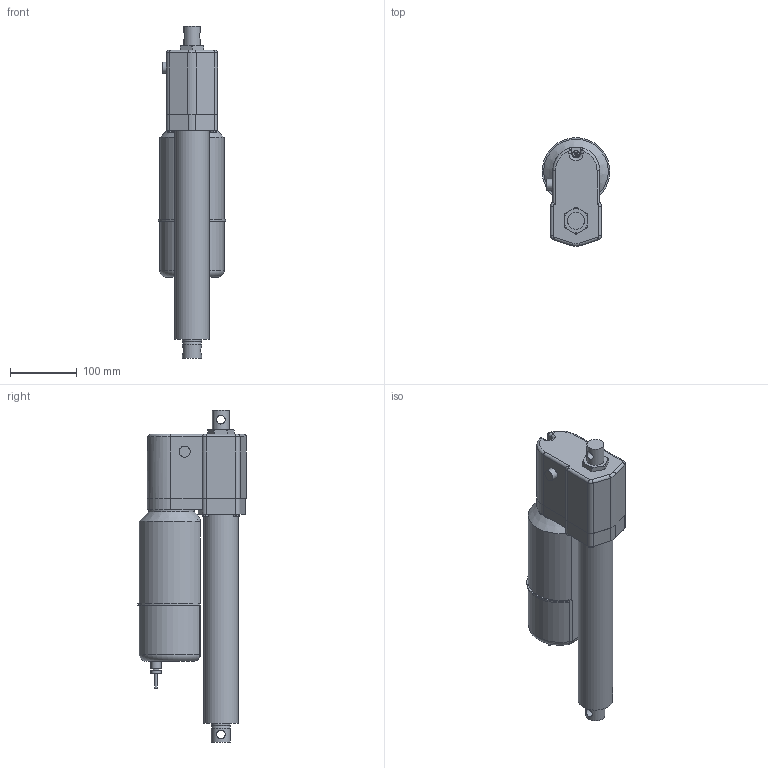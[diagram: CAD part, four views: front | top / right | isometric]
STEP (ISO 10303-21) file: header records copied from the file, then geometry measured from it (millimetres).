
FILE_DESCRIPTION (( 'STEP AP214' ), '1' );
FILE_NAME ('A22-05A5-10M0NPO-tollo.step', '2020-04-05T13:06:45', ( '' ), ( '' ), 'SwSTEP 2.0', 'SolidWorks 2010', '' );
FILE_SCHEMA (( 'AUTOMOTIVE_DESIGN' ));
Length unit declared in the file: millimetre
Products named in the file (7): Electrak-LA5-Motor-A22-05A5-10M0NPO-tollo_Electrak-LA5-Motor-A22-05A5-10M0NPO-tollo; Electrak-LA5-Rear-A22-05A5-10M0NPO-tollo_Electrak-LA5-Rear-A22-05A5-10M0NPO-tollo; Electrak-LA5-Tube-A22-05A5-10M0NPO-tollo_Electrak-LA5-Tube-A22-05A5-10M0NPO-tollo; Electrak-LA5-Rod-A22-05A5-10M0NPO-tollo_Electrak-LA5-Rod-A22-05A5-10M0NPO-tollo; Screw-MFX-H-M5-A22-05A5-10M0NPO-tollo_Screw-MFX-H-M5-A22-05A5-10M0NPO-tollo; Screw-M6S-M5-A22-05A5-10M0NPO-tollo_Screw-M6S-M5-A22-05A5-10M0NPO-tollo; A22-05A5-10M0NPO-tollo
Assembly tree (9 placements, depth 2):
  A22-05A5-10M0NPO-tollo
    Screw-M6S-M5-A22-05A5-10M0NPO-tollo_Screw-M6S-M5-A22-05A5-10M0NPO-tollo  x4
    Electrak-LA5-Rod-A22-05A5-10M0NPO-tollo_Electrak-LA5-Rod-A22-05A5-10M0NPO-tollo
    Electrak-LA5-Motor-A22-05A5-10M0NPO-tollo_Electrak-LA5-Motor-A22-05A5-10M0NPO-tollo
    Screw-MFX-H-M5-A22-05A5-10M0NPO-tollo_Screw-MFX-H-M5-A22-05A5-10M0NPO-tollo
    Electrak-LA5-Rear-A22-05A5-10M0NPO-tollo_Electrak-LA5-Rear-A22-05A5-10M0NPO-tollo
    Electrak-LA5-Tube-A22-05A5-10M0NPO-tollo_Electrak-LA5-Tube-A22-05A5-10M0NPO-tollo
Bounding box: 100.99 x 162.5 x 495.6 mm (x, y, z)
Volume: 3360822.9 mm3; surface area: 284152.4 mm2
Topology: 9 solids, 9 shells, 240 faces, 553 edges, 350 vertices
Faces by surface type: plane 96, cylinder 93, cone 31, torus 15, bspline 3, sphere 2
Full cylindrical faces by diameter (mm): 4 x1, 4.126 x5, 4.8 x2, 5 x13, 7.878 x4, 9.3 x1, 10 x1, 12.8 x2, 15 x2, 16.5 x1, 25.4 x1, 28.6 x4, 51.3 x1, 68 x1
Entity records: 5816 total; most frequent: CARTESIAN_POINT 1727, DIRECTION 814, ORIENTED_EDGE 670, AXIS2_PLACEMENT_3D 343, EDGE_CURVE 335, EDGE_LOOP 249, VERTEX_POINT 238, FACE_OUTER_BOUND 201
